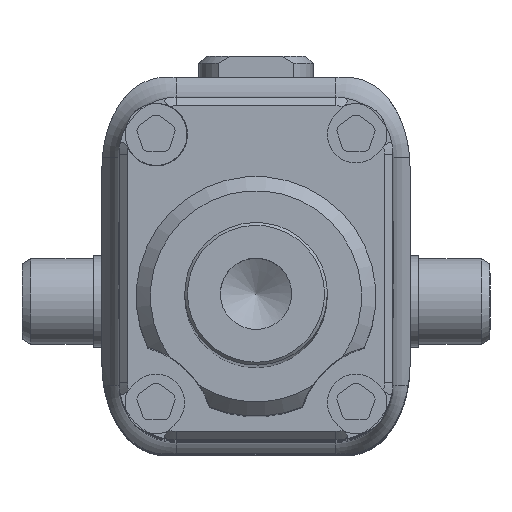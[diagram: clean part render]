
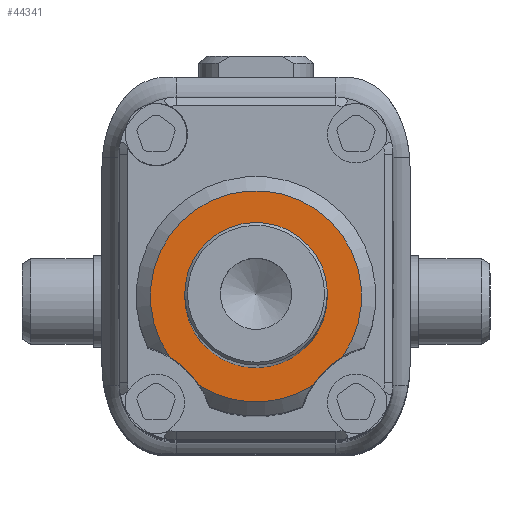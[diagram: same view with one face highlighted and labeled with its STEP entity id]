
A CAD part, top view. The second image highlights one B-rep face of the part: STEP entity #44341.
In plain terms, the highlighted planar face has unit normal (0, 0, 1).
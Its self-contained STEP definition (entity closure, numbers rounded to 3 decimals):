
#782 = EDGE_LOOP ( 'NONE', ( #59200, #46171, #7891, #56270 ) ) ;
#871 = VERTEX_POINT ( 'NONE', #56294 ) ;
#3064 = CARTESIAN_POINT ( 'NONE',  ( 12.553, 5.088, 87. ) ) ;
#4528 = CIRCLE ( 'NONE', #35415, 2.5 ) ;
#5195 = DIRECTION ( 'NONE',  ( 1., 0., 0. ) ) ;
#5503 = CARTESIAN_POINT ( 'NONE',  ( 17.22, 0.222, 87. ) ) ;
#7891 = ORIENTED_EDGE ( 'NONE', *, *, #25082, .F. ) ;
#9303 = EDGE_CURVE ( 'NONE', #871, #42712, #26041, .T. ) ;
#9362 = EDGE_CURVE ( 'NONE', #34877, #34877, #4528, .T. ) ;
#13596 = CIRCLE ( 'NONE', #57626, 3.2 ) ;
#16270 = DIRECTION ( 'NONE',  ( 1., 0., 0. ) ) ;
#16847 = DIRECTION ( 'NONE',  ( 0., 0., 1. ) ) ;
#17475 = CARTESIAN_POINT ( 'NONE',  ( 12.553, 5.088, 87. ) ) ;
#17963 = DIRECTION ( 'NONE',  ( 1., 0., 0. ) ) ;
#19746 = VERTEX_POINT ( 'NONE', #38753 ) ;
#20438 = CIRCLE ( 'NONE', #22408, 3.2 ) ;
#20880 = DIRECTION ( 'NONE',  ( 0., 0., 1. ) ) ;
#21554 = CARTESIAN_POINT ( 'NONE',  ( 7.886, 0.222, 87. ) ) ;
#21644 = PLANE ( 'NONE',  #31426 ) ;
#22408 = AXIS2_PLACEMENT_3D ( 'NONE', #21554, #58932, #35645 ) ;
#24224 = DIRECTION ( 'NONE',  ( 0., 0., 1. ) ) ;
#25082 = EDGE_CURVE ( 'NONE', #871, #19746, #13596, .T. ) ;
#26041 = CIRCLE ( 'NONE', #34821, 3.7 ) ;
#30886 = CARTESIAN_POINT ( 'NONE',  ( 15.053, 5.088, 87. ) ) ;
#30988 = DIRECTION ( 'NONE',  ( 1., 0., 0. ) ) ;
#31165 = FACE_BOUND ( 'NONE', #36630, .T. ) ;
#31426 = AXIS2_PLACEMENT_3D ( 'NONE', #31461, #50149, #17963 ) ;
#31461 = CARTESIAN_POINT ( 'NONE',  ( 12.553, 5.088, 87. ) ) ;
#33878 = CARTESIAN_POINT ( 'NONE',  ( 10.57, 1.965, 87. ) ) ;
#34081 = EDGE_CURVE ( 'NONE', #54401, #19746, #53387, .T. ) ;
#34821 = AXIS2_PLACEMENT_3D ( 'NONE', #3064, #20880, #16270 ) ;
#34877 = VERTEX_POINT ( 'NONE', #30886 ) ;
#35415 = AXIS2_PLACEMENT_3D ( 'NONE', #17475, #16847, #49063 ) ;
#35645 = DIRECTION ( 'NONE',  ( 1., 0., 0. ) ) ;
#36630 = EDGE_LOOP ( 'NONE', ( #48497 ) ) ;
#37787 = CARTESIAN_POINT ( 'NONE',  ( 9.515, 2.976, 87. ) ) ;
#38753 = CARTESIAN_POINT ( 'NONE',  ( 14.536, 1.965, 87. ) ) ;
#42712 = VERTEX_POINT ( 'NONE', #37787 ) ;
#44341 = ADVANCED_FACE ( 'NONE', ( #45543, #31165 ), #21644, .T. ) ;
#45543 = FACE_OUTER_BOUND ( 'NONE', #782, .T. ) ;
#45680 = DIRECTION ( 'NONE',  ( 0., 0., 1. ) ) ;
#46171 = ORIENTED_EDGE ( 'NONE', *, *, #34081, .T. ) ;
#47475 = EDGE_CURVE ( 'NONE', #42712, #54401, #20438, .T. ) ;
#48497 = ORIENTED_EDGE ( 'NONE', *, *, #9362, .F. ) ;
#49063 = DIRECTION ( 'NONE',  ( 1., 0., 0. ) ) ;
#50149 = DIRECTION ( 'NONE',  ( 0., 0., 1. ) ) ;
#50449 = AXIS2_PLACEMENT_3D ( 'NONE', #59161, #45680, #30988 ) ;
#53387 = CIRCLE ( 'NONE', #50449, 3.7 ) ;
#54401 = VERTEX_POINT ( 'NONE', #33878 ) ;
#56270 = ORIENTED_EDGE ( 'NONE', *, *, #9303, .T. ) ;
#56294 = CARTESIAN_POINT ( 'NONE',  ( 15.591, 2.976, 87. ) ) ;
#57626 = AXIS2_PLACEMENT_3D ( 'NONE', #5503, #24224, #5195 ) ;
#58932 = DIRECTION ( 'NONE',  ( 0., 0., -1. ) ) ;
#59161 = CARTESIAN_POINT ( 'NONE',  ( 12.553, 5.088, 87. ) ) ;
#59200 = ORIENTED_EDGE ( 'NONE', *, *, #47475, .T. ) ;
